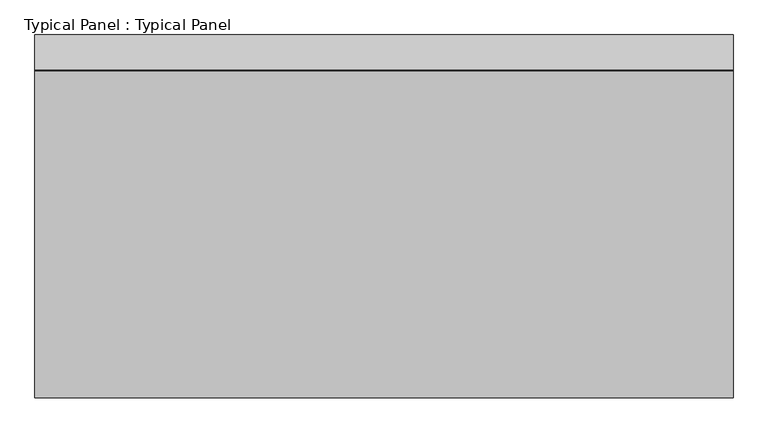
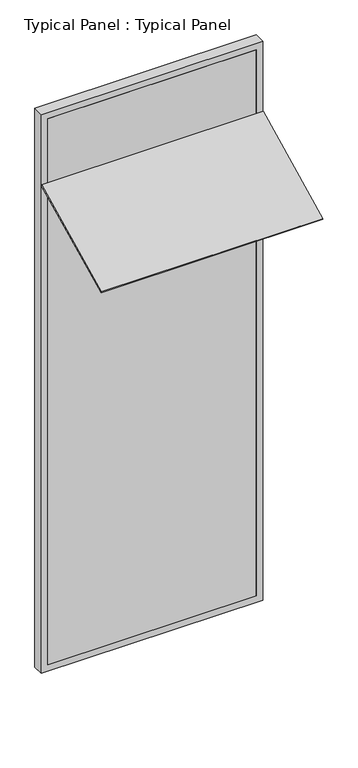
"""IFC4 building model written with IfcOpenShell, lengths in millimetres: plate geometry, Typical Panel : Typical Panel."""

from ifc_helpers import new_model, si_unit, frame, origin, place, context, project, spatial, polyline, outline, extrude, source, transform, mapped, element, save


def typical_panel_typical_panel_328596d2(model_context):
    return source(origin(), model_context, "Body", "SweptSolid", [
        extrude(outline(polyline([(0.0, -780.0), (0.0, 0.0), (1500.0, 0.0), (1500.0, -780.0), (0.0, -780.0)])), frame((750.0, -701.6756446, 3149.082565), z_axis=(0.0, -0.43837114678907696, 0.8987940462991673), x_axis=(-1.0, 0.0, 0.0)), (0.0, 0.0, 1.0), 10.0),
        extrude(outline(polyline([(0.0, -750.0), (0.0, 750.0), (4000.0, 750.0), (4000.0, -750.0), (0.0, -750.0)]), holes=[polyline([(45.0, 705.0), (45.0, -705.0), (3955.0, -705.0), (3955.0, 705.0), (45.0, 705.0)])]), frame((0.0, -1.5797986, 0.0), z_axis=(0.0, 1.0, 0.0), x_axis=(0.0, 0.0, 1.0)), (0.0, 0.0, 1.0), 75.0),
        extrude(outline(polyline([(705.0, -1.5797986), (-705.0, -1.5797986), (-705.0, 13.4202014), (705.0, 13.4202014), (705.0, -1.5797986)])), frame((0.0, 0.0, 45.0), z_axis=(0.0, 0.0, 1.0), x_axis=(1.0, 0.0, 0.0)), (0.0, 0.0, 1.0), 3910.0),
    ])


if __name__ == "__main__":
    model = new_model("IFC4")
    model_context = context("Model", 3, world=origin())
    ifc_project = project(units=[si_unit("LENGTHUNIT", "METRE", prefix="MILLI")], contexts=[model_context])
    site = spatial("IfcSite", under=ifc_project)
    building = spatial("IfcBuilding", under=site)
    placement = place(None, origin())
    typical_panel_typical_panel_shape = typical_panel_typical_panel_328596d2(model_context)
    element("IfcPlate", 1, ObjectType="Typical Panel : Typical Panel", at=placement, inside=building, context=model_context, shape_type="MappedRepresentation", body=[
        mapped(typical_panel_typical_panel_shape, transform((0.0, 0.0, 0.0), x_axis=(1.0, 0.0, 0.0), y_axis=(0.0, 1.0, 0.0), z_axis=(0.0, 0.0, 1.0))),
    ])
    save(model, "model.ifc")
